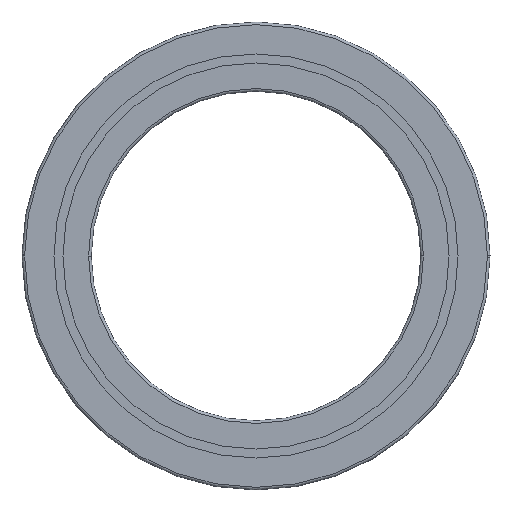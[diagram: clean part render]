
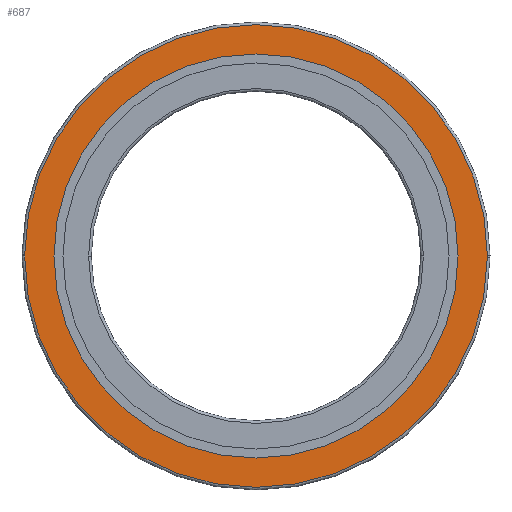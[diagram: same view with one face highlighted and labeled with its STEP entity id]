
A CAD part, front view. The second image highlights one B-rep face of the part: STEP entity #687.
In plain terms, the highlighted planar face has unit normal (0, -1, 0).
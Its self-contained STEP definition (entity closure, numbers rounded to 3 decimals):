
#315=EDGE_CURVE('',#691,#769,#853,.T.);
#369=EDGE_CURVE('',#823,#815,#915,.T.);
#381=EDGE_CURVE('',#693,#823,#927,.T.);
#483=EDGE_CURVE('',#617,#693,#1041,.T.);
#617=VERTEX_POINT('',#1200);
#619=EDGE_CURVE('',#815,#617,#1202,.T.);
#687=ADVANCED_FACE('',(#1273,#1274),#1275,.F.);
#691=VERTEX_POINT('',#1279);
#693=VERTEX_POINT('',#1281);
#769=VERTEX_POINT('',#1365);
#803=EDGE_CURVE('',#769,#691,#1402,.T.);
#815=VERTEX_POINT('',#1416);
#823=VERTEX_POINT('',#1425);
#853=CIRCLE('',#1454,153.25);
#915=CIRCLE('',#1532,175.5);
#927=CIRCLE('',#1549,175.5);
#1041=CIRCLE('',#1692,175.5);
#1200=CARTESIAN_POINT('',(-175.5,0.0,0.));
#1202=CIRCLE('',#1889,175.5);
#1273=FACE_OUTER_BOUND('',#1973,.T.);
#1274=FACE_BOUND('',#1974,.T.);
#1275=PLANE('',#1975);
#1279=CARTESIAN_POINT('',(153.25,0.0,0.));
#1281=CARTESIAN_POINT('',(175.497,0.0,-1.085));
#1365=CARTESIAN_POINT('',(-153.25,0.0,0.0));
#1402=CIRCLE('',#2132,153.25);
#1416=CARTESIAN_POINT('',(-175.497,0.0,1.085));
#1425=CARTESIAN_POINT('',(175.5,0.0,0.0));
#1454=AXIS2_PLACEMENT_3D('',#2162,#2163,#2164);
#1532=AXIS2_PLACEMENT_3D('',#2260,#2261,#2262);
#1549=AXIS2_PLACEMENT_3D('',#2275,#2276,#2277);
#1692=AXIS2_PLACEMENT_3D('',#2418,#2419,#2420);
#1889=AXIS2_PLACEMENT_3D('',#2660,#2661,#2662);
#1973=EDGE_LOOP('',(#2727,#2728,#2729,#2730));
#1974=EDGE_LOOP('',(#2731,#2732));
#1975=AXIS2_PLACEMENT_3D('',#2733,#2734,#2735);
#2132=AXIS2_PLACEMENT_3D('',#2905,#2906,#2907);
#2162=CARTESIAN_POINT('',(0.0,0.0,0.0));
#2163=DIRECTION('',(0.0,-1.0,0.0));
#2164=DIRECTION('',(1.0,0.0,0.0));
#2260=CARTESIAN_POINT('',(0.0,0.0,0.0));
#2261=DIRECTION('',(0.0,-1.0,0.0));
#2262=DIRECTION('',(1.0,0.0,0.0));
#2275=CARTESIAN_POINT('',(0.0,0.0,0.0));
#2276=DIRECTION('',(0.0,-1.0,0.0));
#2277=DIRECTION('',(-1.0,0.0,0.0));
#2418=CARTESIAN_POINT('',(0.0,0.0,0.0));
#2419=DIRECTION('',(0.0,-1.0,0.0));
#2420=DIRECTION('',(-1.0,0.0,0.0));
#2660=CARTESIAN_POINT('',(0.0,0.0,0.0));
#2661=DIRECTION('',(0.0,-1.0,0.0));
#2662=DIRECTION('',(1.0,0.0,0.0));
#2727=ORIENTED_EDGE('',*,*,#483,.T.);
#2728=ORIENTED_EDGE('',*,*,#381,.T.);
#2729=ORIENTED_EDGE('',*,*,#369,.T.);
#2730=ORIENTED_EDGE('',*,*,#619,.T.);
#2731=ORIENTED_EDGE('',*,*,#803,.F.);
#2732=ORIENTED_EDGE('',*,*,#315,.F.);
#2733=CARTESIAN_POINT('',(0.0,0.0,0.0));
#2734=DIRECTION('',(0.0,1.0,0.0));
#2735=DIRECTION('',(1.0,0.0,-0.0));
#2905=CARTESIAN_POINT('',(0.0,0.0,0.0));
#2906=DIRECTION('',(0.0,-1.0,0.0));
#2907=DIRECTION('',(-1.0,0.0,0.0));
